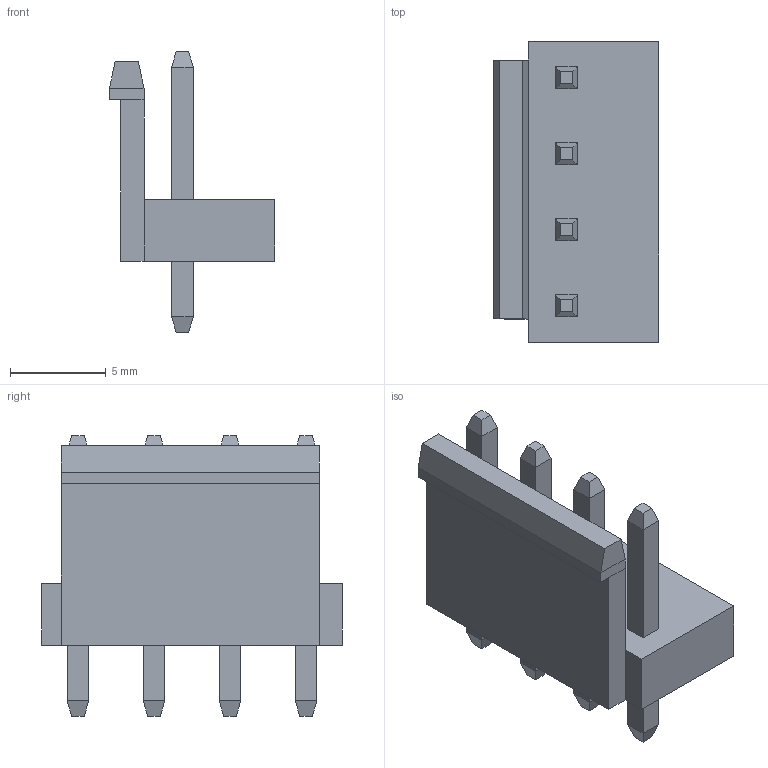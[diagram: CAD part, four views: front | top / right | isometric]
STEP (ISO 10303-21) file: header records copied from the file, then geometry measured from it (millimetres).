
FILE_DESCRIPTION(('FreeCAD Model'),'2;1');
FILE_NAME('Open CASCADE Shape Model','2021-06-28T19:31:17',('Author'),( ''),'Open CASCADE STEP processor 7.5','FreeCAD','Unknown');
FILE_SCHEMA(('AUTOMOTIVE_DESIGN { 1 0 10303 214 1 1 1 1 }'));
Length unit declared in the file: millimetre
Products named in the file (1): Group001
Bounding box: 8.6 x 15.64 x 14.6 mm (x, y, z)
Volume: 574.7 mm3; surface area: 813.1 mm2
Topology: 1 solids, 1 shells, 94 faces, 208 edges, 124 vertices
Faces by surface type: plane 94
Entity records: 5834 total; most frequent: CARTESIAN_POINT 875, DIRECTION 782, LINE 592, VECTOR 592, ORIENTED_EDGE 416, PCURVE 416, DEFINITIONAL_REPRESENTATION 416, EDGE_CURVE 208
